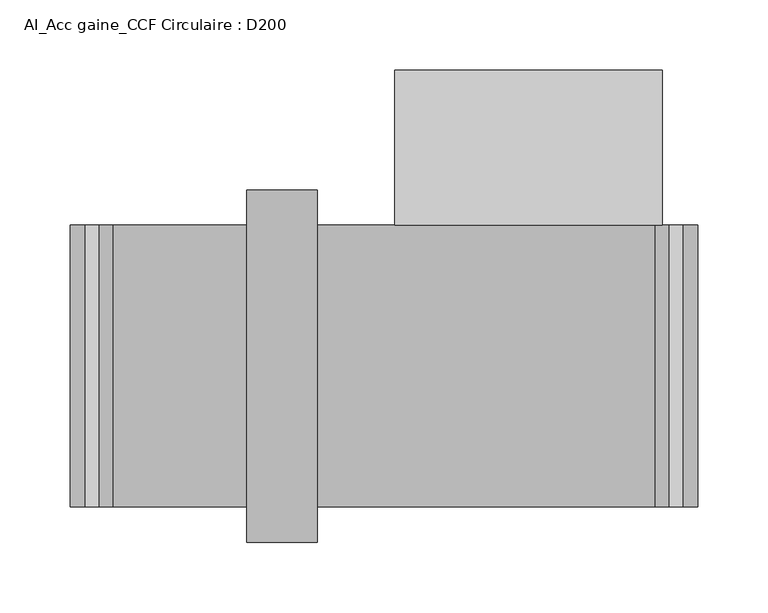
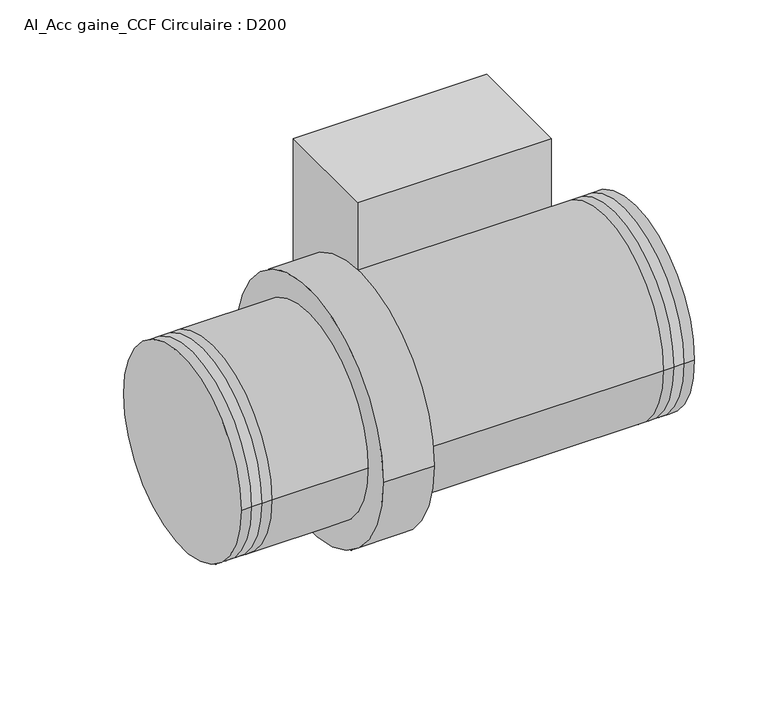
"""IFC4 building model written with IfcOpenShell, lengths in millimetres: damper geometry, AI_Acc gaine_CCF Circulaire : D200."""

from ifc_helpers import new_model, si_unit, point, frame, origin, origin_2d, place, context, project, spatial, polyline, circle_curve, trimmed, segment, composite_curve, outline, extrude, source, transform, mapped, element, save
from ifc_brep_helpers import plane_surface, cylinder_surface, advanced_brep


def ai_acc_gaine_ccf_circulaire_d200_bacb5152(model_context):
    return source(origin(), model_context, "Body", "SolidModel", [
        extrude(outline(polyline([(95.0, 210.0), (95.0, 100.0), (-95.0, 100.0), (-95.0, 210.0), (95.0, 210.0)])), frame((0.0, 0.0, -117.5), z_axis=(0.0, 0.0, 1.0), x_axis=(1.0, 0.0, 0.0)), (0.0, 0.0, 1.0), 235.0),
        extrude(outline(composite_curve([segment(trimmed(circle_curve(origin_2d(), 125.0), [point((-125.0, 0.0))], [point((125.0, 0.0))], False, "CARTESIAN"), True, "CONTINUOUS"), segment(trimmed(circle_curve(origin_2d(), 125.0), [point((125.0, 0.0))], [point((-125.0, 0.0))], False, "CARTESIAN"), True, "CONTINUOUS")], self_intersect=False)), frame((-200.0, 0.0, 0.0), z_axis=(1.0, 0.0, 0.0), x_axis=(0.0, 1.0, 0.0)), (0.0, 0.0, 1.0), 50.0),
        advanced_brep(
        [(-325.0, -100.0, 0.0), (-325.0, 100.0, 0.0), (-315.0, -100.0, 0.0), (-315.0, 100.0, 0.0), (-305.0, 100.0, 0.0), (-305.0, -100.0, 0.0), (-295.0, -100.0, 0.0), (-295.0, 100.0, 0.0), (-200.0, -100.0, 0.0), (-200.0, 100.0, 0.0)],
        [
            (0, 1, circle_curve(frame((-325.0, 0.0, 0.0), z_axis=(-1.0, 0.0, 0.0), x_axis=(0.0, 1.0, 0.0)), 100.0)),
            (1, 0, circle_curve(frame((-325.0, 0.0, 0.0), z_axis=(-1.0, 0.0, 0.0), x_axis=(0.0, 1.0, 0.0)), 100.0)),
            (0, 2),
            (2, 3, circle_curve(frame((-315.0, 0.0, 0.0), z_axis=(-1.0, 0.0, 0.0), x_axis=(0.0, 1.0, 0.0)), 100.0)),
            (3, 1),
            (3, 2, circle_curve(frame((-315.0, 0.0, 0.0), z_axis=(-1.0, 0.0, 0.0), x_axis=(0.0, 1.0, 0.0)), 100.0)),
            (3, 4),
            (4, 5, circle_curve(frame((-305.0, 0.0, 0.0), z_axis=(-1.0, 0.0, 0.0), x_axis=(0.0, 0.0, -1.0)), 100.0)),
            (5, 2),
            (5, 4, circle_curve(frame((-305.0, 0.0, 0.0), z_axis=(-1.0, 0.0, 0.0), x_axis=(0.0, 0.0, 1.0)), 100.0)),
            (5, 6),
            (6, 7, circle_curve(frame((-295.0, 0.0, 0.0), z_axis=(-1.0, 0.0, 0.0), x_axis=(0.0, 1.0, 0.0)), 100.0)),
            (7, 4),
            (7, 6, circle_curve(frame((-295.0, 0.0, 0.0), z_axis=(-1.0, 0.0, 0.0), x_axis=(0.0, 1.0, 0.0)), 100.0)),
            (8, 9, circle_curve(frame((-200.0, 0.0, 0.0), z_axis=(1.0, 0.0, 0.0), x_axis=(0.0, 1.0, 0.0)), 100.0)),
            (9, 8, circle_curve(frame((-200.0, 0.0, 0.0), z_axis=(1.0, 0.0, 0.0), x_axis=(0.0, 1.0, 0.0)), 100.0)),
            (9, 7),
            (6, 8),
        ],
        [
            plane_surface(frame((-325.0, 0.0, 0.0), z_axis=(-1.0, 0.0, 0.0), x_axis=(0.0, 0.0, 1.0))),
            cylinder_surface(frame((-325.0, 0.0, 0.0), z_axis=(-1.0, 0.0, 0.0), x_axis=(0.0, 1.0, 0.0)), 100.0),
            cylinder_surface(frame((-315.0, 0.0, 0.0), z_axis=(1.0, 0.0, 0.0), x_axis=(0.0, 0.0, -1.0)), 100.0),
            cylinder_surface(frame((-315.0, 0.0, 0.0), z_axis=(1.0, 0.0, 0.0), x_axis=(0.0, 0.0, 1.0)), 100.0),
            cylinder_surface(frame((-305.0, 0.0, 0.0), z_axis=(-1.0, 0.0, 0.0), x_axis=(0.0, 1.0, 0.0)), 100.0),
            plane_surface(frame((-200.0, 0.0, 0.0), z_axis=(1.0, 0.0, 0.0), x_axis=(0.0, 0.0, 1.0))),
            cylinder_surface(frame((-295.0, 0.0, 0.0), z_axis=(-1.0, 0.0, 0.0), x_axis=(0.0, 1.0, 0.0)), 100.0),
        ],
        [
            (0, [[1, 2]]),
            (1, [[-1, 3, 4, 5]]),
            (1, [[-2, -5, 6, -3]]),
            (2, [[7, 8, 9, -6]]),
            (3, [[-7, -4, -9, 10]]),
            (4, [[11, 12, 13, -10]]),
            (4, [[-11, -8, -13, 14]]),
            (5, [[15, 16]]),
            (6, [[-16, 17, -12, 18]]),
            (6, [[-15, -18, -14, -17]]),
        ],
    ),
        advanced_brep(
        [(120.0, -100.0, 0.0), (120.0, 100.0, 0.0), (110.0, 100.0, 0.0), (110.0, -100.0, 0.0), (100.0, 100.0, 0.0), (100.0, -100.0, 0.0), (90.0, -100.0, 0.0), (90.0, 100.0, 0.0), (-150.0, -100.0, 0.0), (-150.0, 100.0, 0.0)],
        [
            (0, 1, circle_curve(frame((120.0, 0.0, 0.0), z_axis=(1.0, 0.0, 0.0), x_axis=(0.0, 1.0, 0.0)), 100.0)),
            (1, 0, circle_curve(frame((120.0, 0.0, 0.0), z_axis=(1.0, 0.0, 0.0), x_axis=(0.0, 1.0, 0.0)), 100.0)),
            (1, 2),
            (2, 3, circle_curve(frame((110.0, 0.0, 0.0), z_axis=(1.0, 0.0, 0.0), x_axis=(0.0, 1.0, 0.0)), 100.0)),
            (3, 0),
            (3, 2, circle_curve(frame((110.0, 0.0, 0.0), z_axis=(1.0, 0.0, 0.0), x_axis=(0.0, 1.0, 0.0)), 100.0)),
            (4, 2),
            (3, 5),
            (5, 4, circle_curve(frame((100.0, 0.0, 0.0), z_axis=(1.0, 0.0, 0.0), x_axis=(0.0, 0.0, -1.0)), 100.0)),
            (4, 5, circle_curve(frame((100.0, 0.0, 0.0), z_axis=(1.0, 0.0, 0.0), x_axis=(0.0, 0.0, 1.0)), 100.0)),
            (6, 5),
            (4, 7),
            (7, 6, circle_curve(frame((90.0, 0.0, 0.0), z_axis=(1.0, 0.0, 0.0), x_axis=(0.0, 1.0, 0.0)), 100.0)),
            (6, 7, circle_curve(frame((90.0, 0.0, 0.0), z_axis=(1.0, 0.0, 0.0), x_axis=(0.0, 1.0, 0.0)), 100.0)),
            (8, 9, circle_curve(frame((-150.0, 0.0, 0.0), z_axis=(-1.0, 0.0, 0.0), x_axis=(0.0, 1.0, 0.0)), 100.0)),
            (9, 8, circle_curve(frame((-150.0, 0.0, 0.0), z_axis=(-1.0, 0.0, 0.0), x_axis=(0.0, 1.0, 0.0)), 100.0)),
            (8, 6),
            (7, 9),
        ],
        [
            plane_surface(frame((120.0, 0.0, 0.0), z_axis=(1.0, 0.0, 0.0), x_axis=(0.0, 0.0, 1.0))),
            cylinder_surface(frame((110.0, 0.0, 0.0), z_axis=(-1.0, 0.0, 0.0), x_axis=(0.0, 1.0, 0.0)), 100.0),
            cylinder_surface(frame((100.0, 0.0, 0.0), z_axis=(1.0, 0.0, 0.0), x_axis=(0.0, 0.0, -1.0)), 100.0),
            cylinder_surface(frame((100.0, 0.0, 0.0), z_axis=(1.0, 0.0, 0.0), x_axis=(0.0, 0.0, 1.0)), 100.0),
            cylinder_surface(frame((90.0, 0.0, 0.0), z_axis=(-1.0, 0.0, 0.0), x_axis=(0.0, 1.0, 0.0)), 100.0),
            plane_surface(frame((-150.0, 0.0, 0.0), z_axis=(-1.0, 0.0, 0.0), x_axis=(0.0, 0.0, 1.0))),
            cylinder_surface(frame((-150.0, 0.0, 0.0), z_axis=(-1.0, 0.0, 0.0), x_axis=(0.0, 1.0, 0.0)), 100.0),
        ],
        [
            (0, [[1, 2]]),
            (1, [[-2, 3, 4, 5]]),
            (1, [[-1, -5, 6, -3]]),
            (2, [[7, -6, 8, 9]]),
            (3, [[-7, 10, -8, -4]]),
            (4, [[11, -10, 12, 13]]),
            (4, [[-11, 14, -12, -9]]),
            (5, [[15, 16]]),
            (6, [[-15, 17, -13, 18]]),
            (6, [[-16, -18, -14, -17]]),
        ],
    ),
    ])


if __name__ == "__main__":
    model = new_model("IFC4")
    model_context = context("Model", 3, world=origin())
    ifc_project = project(units=[si_unit("LENGTHUNIT", "METRE", prefix="MILLI")], contexts=[model_context])
    site = spatial("IfcSite", under=ifc_project)
    building = spatial("IfcBuilding", under=site)
    placement = place(None, origin())
    ai_acc_gaine_ccf_circulaire_d200_shape = ai_acc_gaine_ccf_circulaire_d200_bacb5152(model_context)
    element("IfcDamper", 1, ObjectType="AI_Acc gaine_CCF Circulaire : D200", at=placement, inside=building, context=model_context, shape_type="MappedRepresentation", body=[
        mapped(ai_acc_gaine_ccf_circulaire_d200_shape, transform((0.0, 0.0, 0.0), x_axis=(1.0, 0.0, 0.0), y_axis=(0.0, 1.0, 0.0), z_axis=(0.0, 0.0, 1.0))),
    ])
    save(model, "model.ifc")
